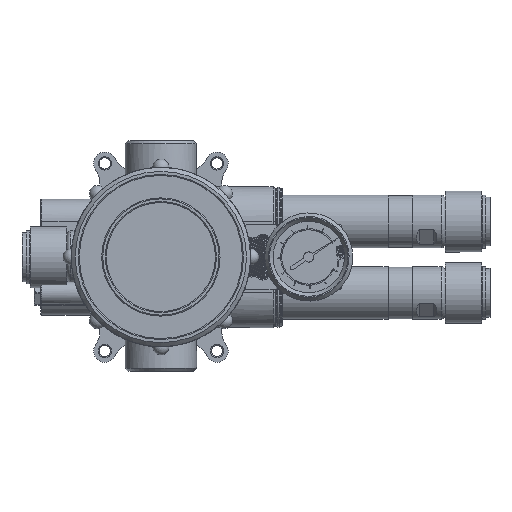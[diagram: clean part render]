
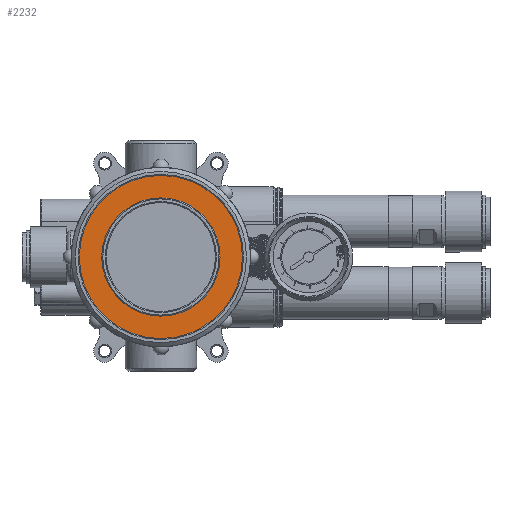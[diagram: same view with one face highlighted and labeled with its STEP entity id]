
A CAD part, top view. The second image highlights one B-rep face of the part: STEP entity #2232.
In plain terms, the highlighted planar face has unit normal (0, 0, 1).
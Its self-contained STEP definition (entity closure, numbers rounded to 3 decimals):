
#2232 = ADVANCED_FACE( '', ( #3714, #3715 ), #3716, .F. );
#3714 = FACE_OUTER_BOUND( '', #5521, .T. );
#3715 = FACE_BOUND( '', #5522, .T. );
#3716 = PLANE( '', #5523 );
#5521 = EDGE_LOOP( '', ( #9830 ) );
#5522 = EDGE_LOOP( '', ( #9831 ) );
#5523 = AXIS2_PLACEMENT_3D( '', #9832, #9833, #9834 );
#9830 = ORIENTED_EDGE( '', *, *, #14779, .T. );
#9831 = ORIENTED_EDGE( '', *, *, #14839, .F. );
#9832 = CARTESIAN_POINT( '', ( -5.5, 0., 42. ) );
#9833 = DIRECTION( '', ( 0., 0., -1. ) );
#9834 = DIRECTION( '', ( 0., -1., 0. ) );
#14779 = EDGE_CURVE( '', #17857, #17857, #17858, .F. );
#14839 = EDGE_CURVE( '', #17943, #17943, #17944, .F. );
#17857 = VERTEX_POINT( '', #22550 );
#17858 = CIRCLE( '', #22551, 40. );
#17943 = VERTEX_POINT( '', #22707 );
#17944 = CIRCLE( '', #22708, 29. );
#22550 = CARTESIAN_POINT( '', ( -45.5, 0., 42. ) );
#22551 = AXIS2_PLACEMENT_3D( '', #26869, #26870, #26871 );
#22707 = CARTESIAN_POINT( '', ( -34.5, 0., 42. ) );
#22708 = AXIS2_PLACEMENT_3D( '', #26969, #26970, #26971 );
#26869 = CARTESIAN_POINT( '', ( -5.5, 0., 42. ) );
#26870 = DIRECTION( '', ( 0., 0., -1. ) );
#26871 = DIRECTION( '', ( -1., 0., 0. ) );
#26969 = CARTESIAN_POINT( '', ( -5.5, 0., 42. ) );
#26970 = DIRECTION( '', ( 0., 0., -1. ) );
#26971 = DIRECTION( '', ( -1., 0., 0. ) );
